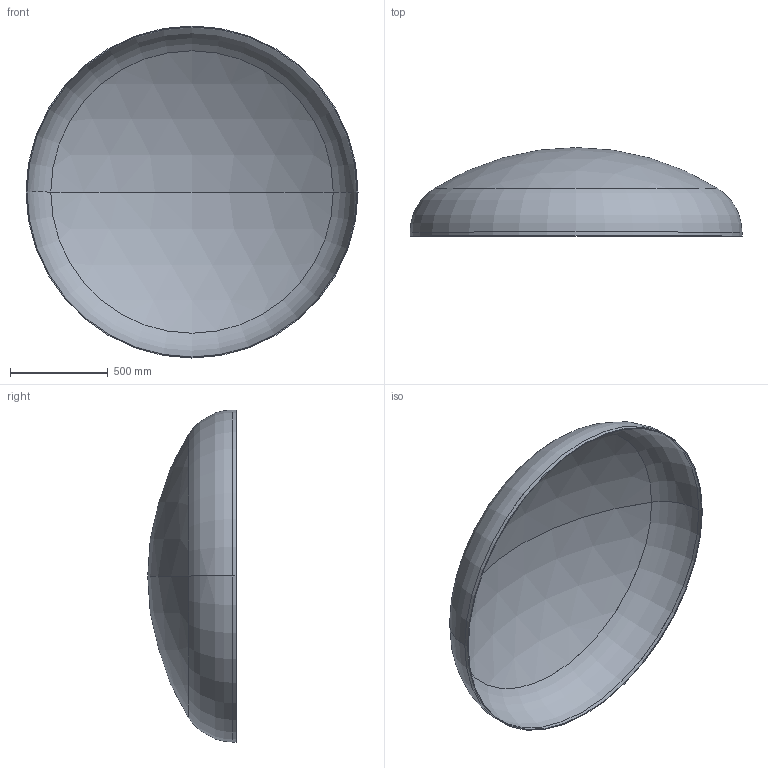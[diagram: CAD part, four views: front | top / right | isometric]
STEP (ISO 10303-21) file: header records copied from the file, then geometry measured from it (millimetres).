
FILE_DESCRIPTION (( 'STEP AP203' ), '1' );
FILE_NAME ('DIN 28013 Korbbogenform_-_Boden DIN 28013 - 1700 x 20 - I - s=5.step', '2016-07-01T11:34:41', ( '' ), ( '' ), 'SwSTEP 2.0', 'SolidWorks 2013', '' );
FILE_SCHEMA (( 'CONFIG_CONTROL_DESIGN' ));
Length unit declared in the file: millimetre
Products named in the file (1): DIN 28013 Korbbogenform_-_Boden DIN 28013 - 1700 x 20 - I - s=5
Bounding box: 1700 x 453.46 x 1700 mm (x, y, z)
Volume: 16169909.9 mm3; surface area: 6494638.7 mm2
Topology: 1 solids, 1 shells, 13 faces, 24 edges, 14 vertices
Faces by surface type: torus 4, cylinder 4, sphere 4, plane 1
Entity records: 407 total; most frequent: DIRECTION 72, CARTESIAN_POINT 52, ORIENTED_EDGE 48, AXIS2_PLACEMENT_3D 34, EDGE_CURVE 24, CIRCLE 20, EDGE_LOOP 14, VERTEX_POINT 14
